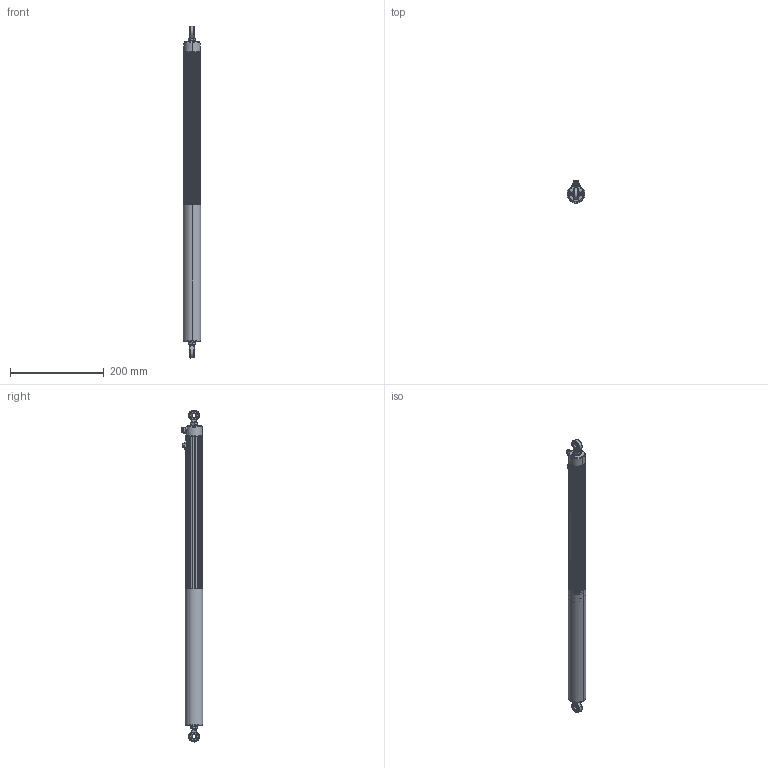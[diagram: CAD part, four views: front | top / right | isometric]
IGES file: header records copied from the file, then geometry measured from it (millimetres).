
Start section: SolidWorks IGES file using analytic representation for surfaces
Global section: file name: I:\Zeichnungen_EK-VM\ZUR BEARBEITUNG\neu_sz\LWX-002\Bewegungseinheit\0250.IGS; native system: SolidWorks 2009; preprocessor: SolidWorks 2009; author: salzinger; date: 090127.110849; units: millimetre
Bounding box: 38 x 46.6 x 707.6 mm (x, y, z)
Volume: 426245.2 mm3; surface area: 160509.9 mm2
Topology: 34 solids, 34 shells, 1092 faces, 5772 edges, 7505 vertices
Faces by surface type: revolution 684, plane 338, bspline 70
